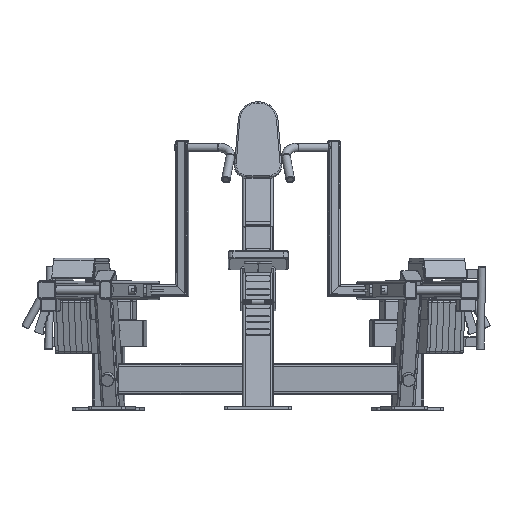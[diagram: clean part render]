
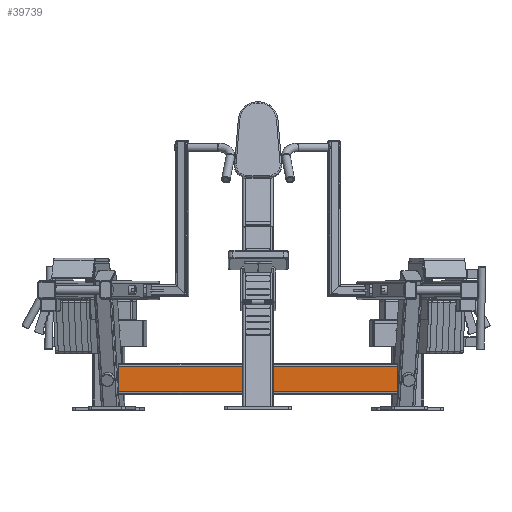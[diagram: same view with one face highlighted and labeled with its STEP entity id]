
A CAD part, top view. The second image highlights one B-rep face of the part: STEP entity #39739.
In plain terms, the highlighted planar face has unit normal (0, 0, 1).
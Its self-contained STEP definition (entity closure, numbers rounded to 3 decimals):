
#2484=PLANE('',#43615);
#4537=FACE_OUTER_BOUND('',#7127,.T.);
#7127=EDGE_LOOP('',(#34871,#34872,#34873,#34874));
#10564=LINE('',#93449,#14035);
#10569=LINE('',#93470,#14040);
#10574=LINE('',#93482,#14045);
#10575=LINE('',#93484,#14046);
#14035=VECTOR('',#53860,1000.);
#14040=VECTOR('',#53877,1000.);
#14045=VECTOR('',#53892,1000.);
#14046=VECTOR('',#53895,1000.);
#19086=VERTEX_POINT('',#93446);
#19087=VERTEX_POINT('',#93448);
#19096=VERTEX_POINT('',#93467);
#19097=VERTEX_POINT('',#93469);
#24440=EDGE_CURVE('',#19086,#19087,#10564,.T.);
#24450=EDGE_CURVE('',#19097,#19096,#10569,.T.);
#24457=EDGE_CURVE('',#19086,#19097,#10574,.T.);
#24458=EDGE_CURVE('',#19087,#19096,#10575,.T.);
#34871=ORIENTED_EDGE('',*,*,#24450,.T.);
#34872=ORIENTED_EDGE('',*,*,#24458,.F.);
#34873=ORIENTED_EDGE('',*,*,#24440,.F.);
#34874=ORIENTED_EDGE('',*,*,#24457,.T.);
#39739=ADVANCED_FACE('',(#4537),#2484,.F.);
#43615=AXIS2_PLACEMENT_3D('',#93483,#53893,#53894);
#53860=DIRECTION('',(0.,1.,0.));
#53877=DIRECTION('',(0.,1.,0.));
#53892=DIRECTION('',(1.,0.,0.));
#53893=DIRECTION('center_axis',(0.,0.,
-1.));
#53894=DIRECTION('ref_axis',(0.,-1.,0.));
#53895=DIRECTION('',(1.,0.,0.));
#93446=CARTESIAN_POINT('',(-443.78,709.039,1339.032));
#93448=CARTESIAN_POINT('',(-443.78,793.039,1339.032));
#93449=CARTESIAN_POINT('',(-443.78,793.039,1339.032));
#93467=CARTESIAN_POINT('',(467.22,793.039,1339.032));
#93469=CARTESIAN_POINT('',(467.22,709.039,1339.032));
#93470=CARTESIAN_POINT('',(467.22,793.039,1339.032));
#93482=CARTESIAN_POINT('',(-443.78,709.039,1339.032));
#93483=CARTESIAN_POINT('Origin',(-443.78,793.039,1339.032));
#93484=CARTESIAN_POINT('',(-443.78,793.039,1339.032));
